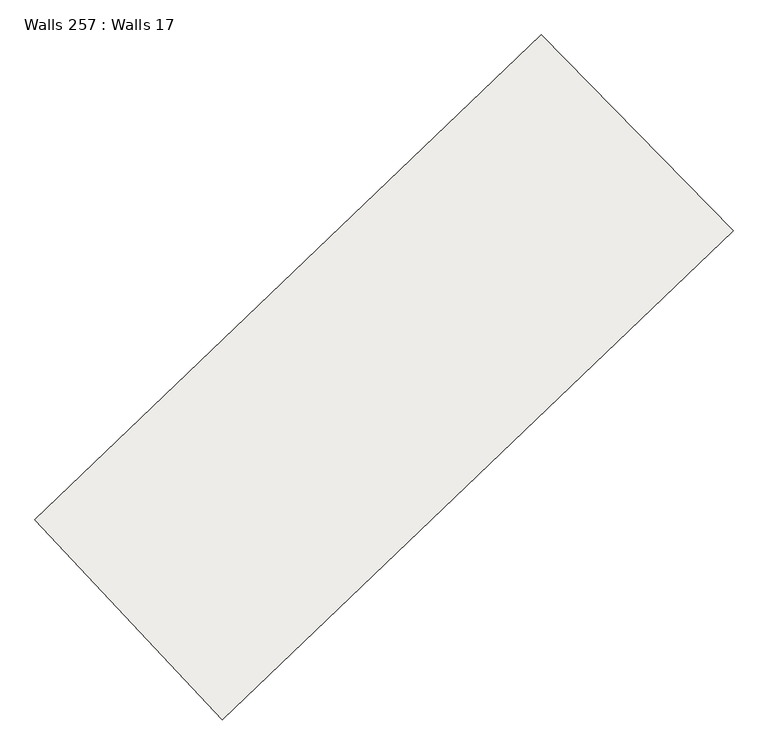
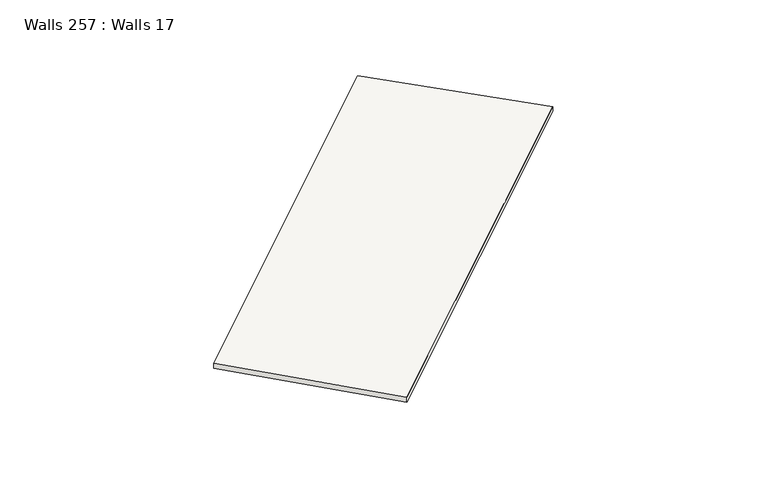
"""IFC4 building model written with IfcOpenShell, lengths in millimetres: slab geometry, Walls 257 : Walls 17."""

from ifc_helpers import new_model, si_unit, frame, origin, place, context, project, spatial, source, transform, mapped, element, save
from ifc_brep_helpers import plane_surface, spline_curve, spline_surface, advanced_brep


def walls_257_walls_17_c9c95b1d(model_context):
    return source(origin(), model_context, "Body", "AdvancedBrep", [
        advanced_brep(
        [(-237896.6182438, -401240.0396464, 634690.0), (-237896.6182438, -401240.0396464, 634590.0), (-240275.3603493, -398816.0558881, 634590.0), (-240275.3603493, -398816.0558881, 634690.0), (-244222.7737132, -407299.8186953, 634620.0), (-246542.8849079, -404818.3801465, 634620.0), (-246542.8849079, -404818.3801465, 634520.0), (-244222.7737132, -407299.8186953, 634520.0)],
        [
            (0, 1),
            (1, 2),
            (2, 3),
            (3, 0),
            (4, 5),
            (5, 6),
            (6, 7),
            (7, 4),
            (6, 2, spline_curve(3, [(-246542.8849079, -404818.3801465, 634520.0), (-244429.638442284, -402842.949545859, 634543.333333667), (-242340.260189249, -400841.980083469, 634566.666666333), (-240275.3603493, -398816.0558881, 634590.0)], [4, 4], [0.0, 28.607614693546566])),
            (1, 7, spline_curve(3, [(-237896.6182438, -401240.0396464, 634590.0), (-239980.826659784, -403285.348035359, 634566.666666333), (-242089.750410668, -405305.471002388, 634543.333333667), (-244222.7737132, -407299.8186953, 634520.0)], [4, 4], [0.0, 28.607614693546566])),
            (4, 0, spline_curve(3, [(-244222.7737132, -407299.8186953, 634620.0), (-242089.750410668, -405305.471002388, 634643.333333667), (-239980.826659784, -403285.348035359, 634666.666666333), (-237896.6182438, -401240.0396464, 634690.0)], [4, 4], [0.0, 28.607614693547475])),
            (3, 5, spline_curve(3, [(-240275.3603493, -398816.0558881, 634690.0), (-242340.260189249, -400841.980083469, 634666.666666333), (-244429.638442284, -402842.949545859, 634643.333333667), (-246542.8849079, -404818.3801465, 634620.0)], [4, 4], [0.0, 28.607614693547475])),
        ],
        [
            plane_surface(frame((-239085.9892966, -400028.0477672, 634640.0), z_axis=(0.7137360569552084, 0.7004147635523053, 0.0), x_axis=(0.0, 0.0, 1.0))),
            plane_surface(frame((-245382.8293105, -406059.0994209, 634570.0), z_axis=(-0.7304526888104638, -0.6829633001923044, 0.0), x_axis=(0.0, 0.0, -1.0))),
            spline_surface(3, 3, [[(-244222.7737132, -407299.8186953, 634520.0), (-242089.750410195, -405305.471002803, 634543.333333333), (-239980.826660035, -403285.348035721, 634566.666666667), (-237896.6182438, -401240.0396464, 634590.0)], [(-244996.144111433, -406472.672512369, 634520.0), (-242869.713087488, -404484.630517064, 634543.333333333), (-240767.304503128, -402470.892051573, 634566.666666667), (-238689.532278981, -400432.045060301, 634590.0)], [(-245769.514509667, -405645.526329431, 634520.0), (-243649.675764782, -403663.790031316, 634543.333333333), (-241553.782346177, -401656.436067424, 634566.666666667), (-239482.446314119, -399624.050474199, 634590.0)], [(-246542.8849079, -404818.3801465, 634520.0), (-244429.638442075, -402842.949545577, 634543.333333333), (-242340.26018927, -400841.980083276, 634566.666666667), (-240275.3603493, -398816.0558881, 634590.0)]], [4, 4], [4, 4], [0.0, 11.143889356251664], [0.0, 28.607614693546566]),
            spline_surface(3, 3, [[(-246542.8849079, -404818.3801465, 634620.0), (-244429.638442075, -402842.949545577, 634643.333333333), (-242340.26018927, -400841.980083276, 634666.666666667), (-240275.3603493, -398816.0558881, 634690.0)], [(-245769.514509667, -405645.526329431, 634620.0), (-243649.675764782, -403663.790031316, 634643.333333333), (-241553.782346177, -401656.436067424, 634666.666666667), (-239482.446314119, -399624.050474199, 634690.0)], [(-244996.144111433, -406472.672512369, 634620.0), (-242869.713087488, -404484.630517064, 634643.333333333), (-240767.304503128, -402470.892051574, 634666.666666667), (-238689.532278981, -400432.045060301, 634690.0)], [(-244222.7737132, -407299.8186953, 634620.0), (-242089.750410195, -405305.471002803, 634643.333333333), (-239980.826660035, -403285.348035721, 634666.666666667), (-237896.6182438, -401240.0396464, 634690.0)]], [4, 4], [4, 4], [0.0, 11.14388935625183], [0.0, 28.607614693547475]),
            spline_surface(3, 3, [[(-244222.7737132, -407299.8186953, 634620.0), (-242089.750410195, -405305.471002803, 634643.333333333), (-239980.826660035, -403285.348035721, 634666.666666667), (-237896.6182438, -401240.0396464, 634690.0)], [(-244222.7737132, -407299.8186953, 634586.666666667), (-242089.750410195, -405305.471002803, 634610.0), (-239980.826660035, -403285.348035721, 634633.333333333), (-237896.6182438, -401240.0396464, 634656.666666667)], [(-244222.7737132, -407299.8186953, 634553.333333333), (-242089.750410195, -405305.471002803, 634576.666666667), (-239980.826660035, -403285.348035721, 634600.0), (-237896.6182438, -401240.0396464, 634623.333333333)], [(-244222.7737132, -407299.8186953, 634520.0), (-242089.750410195, -405305.471002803, 634543.333333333), (-239980.826660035, -403285.348035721, 634566.666666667), (-237896.6182438, -401240.0396464, 634590.0)]], [4, 4], [4, 4], [0.0, 0.3280839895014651], [0.0, 28.74226483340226]),
            spline_surface(3, 3, [[(-246542.8849079, -404818.3801465, 634520.0), (-244429.638442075, -402842.949545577, 634543.333333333), (-242340.26018927, -400841.980083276, 634566.666666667), (-240275.3603493, -398816.0558881, 634590.0)], [(-246542.8849079, -404818.3801465, 634553.333333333), (-244429.638442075, -402842.949545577, 634576.666666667), (-242340.26018927, -400841.980083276, 634600.0), (-240275.3603493, -398816.0558881, 634623.333333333)], [(-246542.8849079, -404818.3801465, 634586.666666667), (-244429.638442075, -402842.949545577, 634610.0), (-242340.26018927, -400841.980083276, 634633.333333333), (-240275.3603493, -398816.0558881, 634656.666666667)], [(-246542.8849079, -404818.3801465, 634620.0), (-244429.638442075, -402842.949545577, 634643.333333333), (-242340.26018927, -400841.980083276, 634666.666666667), (-240275.3603493, -398816.0558881, 634690.0)]], [4, 4], [4, 4], [0.0, 0.3280839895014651], [0.0, 28.47296467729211]),
        ],
        [
            (0, [[1, 2, 3, 4]]),
            (1, [[5, 6, 7, 8]]),
            (2, [[-7, 9, -2, 10]]),
            (3, [[-5, 11, -4, 12]]),
            (4, [[-8, -10, -1, -11]]),
            (5, [[-6, -12, -3, -9]]),
        ],
    ),
    ])


if __name__ == "__main__":
    model = new_model("IFC4")
    model_context = context("Model", 3, world=origin())
    ifc_project = project(units=[si_unit("LENGTHUNIT", "METRE", prefix="MILLI")], contexts=[model_context])
    site = spatial("IfcSite", under=ifc_project)
    building = spatial("IfcBuilding", under=site)
    placement = place(None, origin())
    walls_257_walls_17_shape = walls_257_walls_17_c9c95b1d(model_context)
    element("IfcSlab", 1, ObjectType="Walls 257 : Walls 17", at=placement, inside=building, context=model_context, shape_type="MappedRepresentation", body=[
        mapped(walls_257_walls_17_shape, transform((0.0, 0.0, 0.0), x_axis=(1.0, 0.0, 0.0), y_axis=(0.0, 1.0, 0.0), z_axis=(0.0, 0.0, 1.0))),
    ])
    save(model, "model.ifc")
